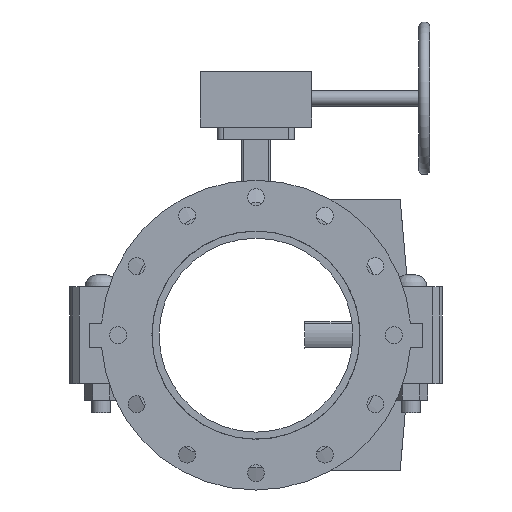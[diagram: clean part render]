
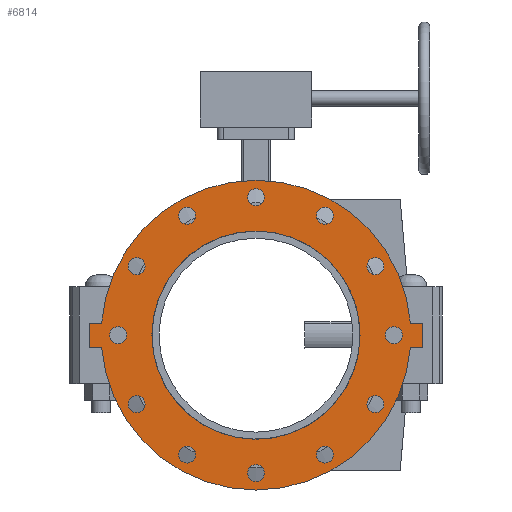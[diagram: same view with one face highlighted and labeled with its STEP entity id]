
A CAD part, front view. The second image highlights one B-rep face of the part: STEP entity #6814.
In plain terms, the highlighted planar face has unit normal (0, -1, 0) as drawn and (0, 0, -1) by its records, which use the part's own axes.
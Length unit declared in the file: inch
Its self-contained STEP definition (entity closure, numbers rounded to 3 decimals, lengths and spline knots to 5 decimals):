
#169=FACE_BOUND('',#885,.T.);
#170=FACE_BOUND('',#886,.T.);
#171=FACE_BOUND('',#887,.T.);
#172=FACE_BOUND('',#888,.T.);
#173=FACE_BOUND('',#889,.T.);
#174=FACE_BOUND('',#890,.T.);
#175=FACE_BOUND('',#891,.T.);
#176=FACE_BOUND('',#892,.T.);
#177=FACE_BOUND('',#893,.T.);
#178=FACE_BOUND('',#894,.T.);
#179=FACE_BOUND('',#895,.T.);
#180=FACE_BOUND('',#896,.T.);
#181=FACE_BOUND('',#897,.T.);
#269=PLANE('',#7431);
#508=FACE_OUTER_BOUND('',#884,.T.);
#884=EDGE_LOOP('',(#4412,#4413,#4414,#4415,#4416,#4417,#4418,#4419));
#885=EDGE_LOOP('',(#4420));
#886=EDGE_LOOP('',(#4421));
#887=EDGE_LOOP('',(#4422));
#888=EDGE_LOOP('',(#4423));
#889=EDGE_LOOP('',(#4424));
#890=EDGE_LOOP('',(#4425));
#891=EDGE_LOOP('',(#4426));
#892=EDGE_LOOP('',(#4427));
#893=EDGE_LOOP('',(#4428));
#894=EDGE_LOOP('',(#4429));
#895=EDGE_LOOP('',(#4430));
#896=EDGE_LOOP('',(#4431));
#897=EDGE_LOOP('',(#4432,#4433));
#1360=LINE('',#10382,#1858);
#1361=LINE('',#10384,#1859);
#1362=LINE('',#10386,#1860);
#1363=LINE('',#10390,#1861);
#1364=LINE('',#10392,#1862);
#1365=LINE('',#10393,#1863);
#1858=VECTOR('',#8289,0.3937);
#1859=VECTOR('',#8290,0.3937);
#1860=VECTOR('',#8291,0.3937);
#1861=VECTOR('',#8294,0.3937);
#1862=VECTOR('',#8295,0.3937);
#1863=VECTOR('',#8296,0.3937);
#2345=CIRCLE('',#7397,0.4375);
#2347=CIRCLE('',#7400,0.4375);
#2349=CIRCLE('',#7403,0.4375);
#2351=CIRCLE('',#7406,0.4375);
#2353=CIRCLE('',#7409,0.4375);
#2355=CIRCLE('',#7412,0.4375);
#2357=CIRCLE('',#7415,0.4375);
#2359=CIRCLE('',#7418,0.4375);
#2361=CIRCLE('',#7421,0.4375);
#2363=CIRCLE('',#7424,0.4375);
#2365=CIRCLE('',#7427,0.4375);
#2367=CIRCLE('',#7430,0.4375);
#2368=CIRCLE('',#7432,8.);
#2369=CIRCLE('',#7433,8.);
#2370=CIRCLE('',#7434,5.375);
#2371=CIRCLE('',#7435,5.375);
#2743=VERTEX_POINT('',#10308);
#2745=VERTEX_POINT('',#10314);
#2747=VERTEX_POINT('',#10320);
#2749=VERTEX_POINT('',#10326);
#2751=VERTEX_POINT('',#10332);
#2753=VERTEX_POINT('',#10338);
#2755=VERTEX_POINT('',#10344);
#2757=VERTEX_POINT('',#10350);
#2759=VERTEX_POINT('',#10356);
#2761=VERTEX_POINT('',#10362);
#2763=VERTEX_POINT('',#10368);
#2765=VERTEX_POINT('',#10374);
#2766=VERTEX_POINT('',#10378);
#2767=VERTEX_POINT('',#10379);
#2768=VERTEX_POINT('',#10381);
#2769=VERTEX_POINT('',#10383);
#2770=VERTEX_POINT('',#10385);
#2771=VERTEX_POINT('',#10387);
#2772=VERTEX_POINT('',#10389);
#2773=VERTEX_POINT('',#10391);
#2774=VERTEX_POINT('',#10394);
#2775=VERTEX_POINT('',#10395);
#3402=EDGE_CURVE('',#2743,#2743,#2345,.T.);
#3405=EDGE_CURVE('',#2745,#2745,#2347,.T.);
#3408=EDGE_CURVE('',#2747,#2747,#2349,.T.);
#3411=EDGE_CURVE('',#2749,#2749,#2351,.T.);
#3414=EDGE_CURVE('',#2751,#2751,#2353,.T.);
#3417=EDGE_CURVE('',#2753,#2753,#2355,.T.);
#3420=EDGE_CURVE('',#2755,#2755,#2357,.T.);
#3423=EDGE_CURVE('',#2757,#2757,#2359,.T.);
#3426=EDGE_CURVE('',#2759,#2759,#2361,.T.);
#3429=EDGE_CURVE('',#2761,#2761,#2363,.T.);
#3432=EDGE_CURVE('',#2763,#2763,#2365,.T.);
#3435=EDGE_CURVE('',#2765,#2765,#2367,.T.);
#3436=EDGE_CURVE('',#2766,#2767,#2368,.T.);
#3437=EDGE_CURVE('',#2767,#2768,#1360,.T.);
#3438=EDGE_CURVE('',#2768,#2769,#1361,.T.);
#3439=EDGE_CURVE('',#2769,#2770,#1362,.T.);
#3440=EDGE_CURVE('',#2770,#2771,#2369,.T.);
#3441=EDGE_CURVE('',#2771,#2772,#1363,.T.);
#3442=EDGE_CURVE('',#2772,#2773,#1364,.T.);
#3443=EDGE_CURVE('',#2773,#2766,#1365,.T.);
#3444=EDGE_CURVE('',#2774,#2775,#2370,.T.);
#3445=EDGE_CURVE('',#2775,#2774,#2371,.T.);
#4412=ORIENTED_EDGE('',*,*,#3436,.T.);
#4413=ORIENTED_EDGE('',*,*,#3437,.T.);
#4414=ORIENTED_EDGE('',*,*,#3438,.T.);
#4415=ORIENTED_EDGE('',*,*,#3439,.T.);
#4416=ORIENTED_EDGE('',*,*,#3440,.T.);
#4417=ORIENTED_EDGE('',*,*,#3441,.T.);
#4418=ORIENTED_EDGE('',*,*,#3442,.T.);
#4419=ORIENTED_EDGE('',*,*,#3443,.T.);
#4420=ORIENTED_EDGE('',*,*,#3402,.T.);
#4421=ORIENTED_EDGE('',*,*,#3405,.T.);
#4422=ORIENTED_EDGE('',*,*,#3408,.T.);
#4423=ORIENTED_EDGE('',*,*,#3411,.T.);
#4424=ORIENTED_EDGE('',*,*,#3414,.T.);
#4425=ORIENTED_EDGE('',*,*,#3417,.T.);
#4426=ORIENTED_EDGE('',*,*,#3420,.T.);
#4427=ORIENTED_EDGE('',*,*,#3423,.T.);
#4428=ORIENTED_EDGE('',*,*,#3426,.T.);
#4429=ORIENTED_EDGE('',*,*,#3429,.T.);
#4430=ORIENTED_EDGE('',*,*,#3432,.T.);
#4431=ORIENTED_EDGE('',*,*,#3435,.T.);
#4432=ORIENTED_EDGE('',*,*,#3444,.T.);
#4433=ORIENTED_EDGE('',*,*,#3445,.T.);
#6814=ADVANCED_FACE('',(#508,#169,#170,#171,#172,#173,#174,#175,#176,#177,
#178,#179,#180,#181),#269,.T.);
#7397=AXIS2_PLACEMENT_3D('',#10310,#8206,#8207);
#7400=AXIS2_PLACEMENT_3D('',#10316,#8213,#8214);
#7403=AXIS2_PLACEMENT_3D('',#10322,#8220,#8221);
#7406=AXIS2_PLACEMENT_3D('',#10328,#8227,#8228);
#7409=AXIS2_PLACEMENT_3D('',#10334,#8234,#8235);
#7412=AXIS2_PLACEMENT_3D('',#10340,#8241,#8242);
#7415=AXIS2_PLACEMENT_3D('',#10346,#8248,#8249);
#7418=AXIS2_PLACEMENT_3D('',#10352,#8255,#8256);
#7421=AXIS2_PLACEMENT_3D('',#10358,#8262,#8263);
#7424=AXIS2_PLACEMENT_3D('',#10364,#8269,#8270);
#7427=AXIS2_PLACEMENT_3D('',#10370,#8276,#8277);
#7430=AXIS2_PLACEMENT_3D('',#10376,#8283,#8284);
#7431=AXIS2_PLACEMENT_3D('',#10377,#8285,#8286);
#7432=AXIS2_PLACEMENT_3D('',#10380,#8287,#8288);
#7433=AXIS2_PLACEMENT_3D('',#10388,#8292,#8293);
#7434=AXIS2_PLACEMENT_3D('',#10396,#8297,#8298);
#7435=AXIS2_PLACEMENT_3D('',#10397,#8299,#8300);
#8206=DIRECTION('center_axis',(0.,0.,1.));
#8207=DIRECTION('ref_axis',(-0.866,0.5,0.));
#8213=DIRECTION('center_axis',(0.,0.,1.));
#8214=DIRECTION('ref_axis',(-0.5,0.866,0.));
#8220=DIRECTION('center_axis',(0.,0.,1.));
#8221=DIRECTION('ref_axis',(0.,1.,0.));
#8227=DIRECTION('center_axis',(0.,0.,1.));
#8228=DIRECTION('ref_axis',(0.5,0.866,0.));
#8234=DIRECTION('center_axis',(0.,0.,1.));
#8235=DIRECTION('ref_axis',(0.866,0.5,0.));
#8241=DIRECTION('center_axis',(0.,0.,1.));
#8242=DIRECTION('ref_axis',(1.,0.,0.));
#8248=DIRECTION('center_axis',(0.,0.,1.));
#8249=DIRECTION('ref_axis',(0.866,-0.5,0.));
#8255=DIRECTION('center_axis',(0.,0.,1.));
#8256=DIRECTION('ref_axis',(0.5,-0.866,0.));
#8262=DIRECTION('center_axis',(0.,0.,1.));
#8263=DIRECTION('ref_axis',(0.,-1.,0.));
#8269=DIRECTION('center_axis',(0.,0.,1.));
#8270=DIRECTION('ref_axis',(-0.5,-0.866,0.));
#8276=DIRECTION('center_axis',(0.,0.,1.));
#8277=DIRECTION('ref_axis',(-0.866,-0.5,0.));
#8283=DIRECTION('center_axis',(0.,0.,1.));
#8284=DIRECTION('ref_axis',(-1.,0.,0.));
#8285=DIRECTION('center_axis',(0.,0.,-1.));
#8286=DIRECTION('ref_axis',(-1.,0.,0.));
#8287=DIRECTION('center_axis',(0.,0.,-1.));
#8288=DIRECTION('ref_axis',(-1.,0.,0.));
#8289=DIRECTION('',(0.,1.,0.));
#8290=DIRECTION('',(1.,0.,0.));
#8291=DIRECTION('',(0.,-1.,0.));
#8292=DIRECTION('center_axis',(0.,0.,-1.));
#8293=DIRECTION('ref_axis',(-1.,0.,0.));
#8294=DIRECTION('',(0.,-1.,0.));
#8295=DIRECTION('',(-1.,0.,0.));
#8296=DIRECTION('',(0.,1.,0.));
#8297=DIRECTION('center_axis',(0.,0.,1.));
#8298=DIRECTION('ref_axis',(-1.,0.,0.));
#8299=DIRECTION('center_axis',(0.,0.,1.));
#8300=DIRECTION('ref_axis',(-1.,0.,0.));
#10308=CARTESIAN_POINT('',(-5.79154,3.34375,-0.625));
#10310=CARTESIAN_POINT('Origin',(-6.17043,3.5625,-0.625));
#10314=CARTESIAN_POINT('',(-3.34375,5.79154,-0.625));
#10316=CARTESIAN_POINT('Origin',(-3.5625,6.17043,-0.625));
#10320=CARTESIAN_POINT('',(0.,6.6875,-0.625));
#10322=CARTESIAN_POINT('Origin',(0.,7.125,-0.625));
#10326=CARTESIAN_POINT('',(3.34375,5.79154,-0.625));
#10328=CARTESIAN_POINT('Origin',(3.5625,6.17043,-0.625));
#10332=CARTESIAN_POINT('',(5.79154,3.34375,-0.625));
#10334=CARTESIAN_POINT('Origin',(6.17043,3.5625,-0.625));
#10338=CARTESIAN_POINT('',(6.6875,0.,-0.625));
#10340=CARTESIAN_POINT('Origin',(7.125,0.,-0.625));
#10344=CARTESIAN_POINT('',(5.79154,-3.34375,-0.625));
#10346=CARTESIAN_POINT('Origin',(6.17043,-3.5625,-0.625));
#10350=CARTESIAN_POINT('',(3.34375,-5.79154,-0.625));
#10352=CARTESIAN_POINT('Origin',(3.5625,-6.17043,-0.625));
#10356=CARTESIAN_POINT('',(0.,-6.6875,-0.625));
#10358=CARTESIAN_POINT('Origin',(0.,-7.125,-0.625));
#10362=CARTESIAN_POINT('',(-3.34375,-5.79154,-0.625));
#10364=CARTESIAN_POINT('Origin',(-3.5625,-6.17043,-0.625));
#10368=CARTESIAN_POINT('',(-5.79154,-3.34375,-0.625));
#10370=CARTESIAN_POINT('Origin',(-6.17043,-3.5625,-0.625));
#10374=CARTESIAN_POINT('',(-6.6875,0.,-0.625));
#10376=CARTESIAN_POINT('Origin',(-7.125,0.,-0.625));
#10377=CARTESIAN_POINT('Origin',(0.,0.,-0.625));
#10378=CARTESIAN_POINT('',(-0.625,-7.97555,-0.625));
#10379=CARTESIAN_POINT('',(-0.625,7.97555,-0.625));
#10380=CARTESIAN_POINT('Origin',(0.,0.,-0.625));
#10381=CARTESIAN_POINT('',(-0.625,8.625,-0.625));
#10382=CARTESIAN_POINT('',(-0.625,-8.625,-0.625));
#10383=CARTESIAN_POINT('',(0.625,8.625,-0.625));
#10384=CARTESIAN_POINT('',(-0.625,8.625,-0.625));
#10385=CARTESIAN_POINT('',(0.625,7.97555,-0.625));
#10386=CARTESIAN_POINT('',(0.625,8.625,-0.625));
#10387=CARTESIAN_POINT('',(0.625,-7.97555,-0.625));
#10388=CARTESIAN_POINT('Origin',(0.,0.,-0.625));
#10389=CARTESIAN_POINT('',(0.625,-8.625,-0.625));
#10390=CARTESIAN_POINT('',(0.625,8.625,-0.625));
#10391=CARTESIAN_POINT('',(-0.625,-8.625,-0.625));
#10392=CARTESIAN_POINT('',(0.625,-8.625,-0.625));
#10393=CARTESIAN_POINT('',(-0.625,-8.625,-0.625));
#10394=CARTESIAN_POINT('',(0.625,5.33854,-0.625));
#10395=CARTESIAN_POINT('',(5.375,0.,-0.625));
#10396=CARTESIAN_POINT('Origin',(0.,0.,-0.625));
#10397=CARTESIAN_POINT('Origin',(0.,0.,-0.625));
